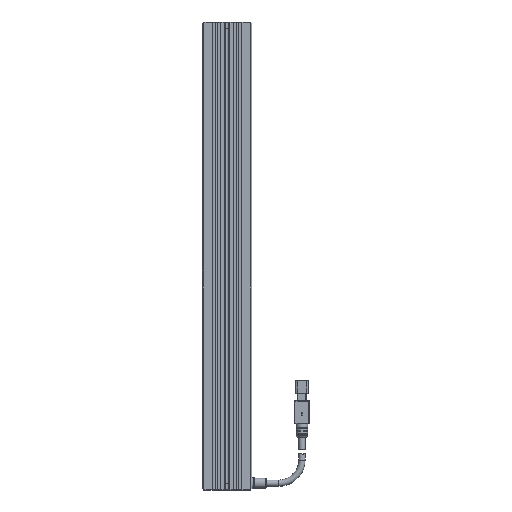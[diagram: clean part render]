
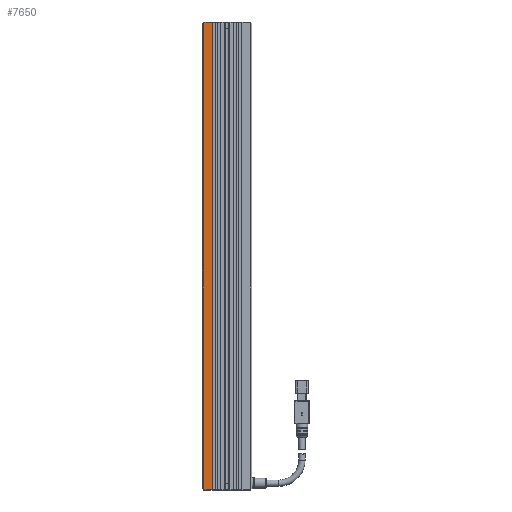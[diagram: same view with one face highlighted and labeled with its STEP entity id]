
A CAD part, top view. The second image highlights one B-rep face of the part: STEP entity #7650.
In plain terms, the highlighted planar face has unit normal (0, 0, 1).
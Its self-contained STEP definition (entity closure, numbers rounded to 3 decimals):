
#595 = LINE ( 'NONE', #9585, #12822 ) ;
#1240 = VECTOR ( 'NONE', #16343, 1000. ) ;
#2207 = FACE_OUTER_BOUND ( 'NONE', #5305, .T. ) ;
#2345 = CARTESIAN_POINT ( 'NONE',  ( -16., -151., 12.5 ) ) ;
#2839 = ORIENTED_EDGE ( 'NONE', *, *, #11911, .T. ) ;
#2917 = LINE ( 'NONE', #6112, #13808 ) ;
#2971 = VERTEX_POINT ( 'NONE', #11487 ) ;
#3251 = CARTESIAN_POINT ( 'NONE',  ( -15., -152., 12.5 ) ) ;
#3433 = CARTESIAN_POINT ( 'NONE',  ( -15.5, -151.5, 12.5 ) ) ;
#4812 = VECTOR ( 'NONE', #15012, 1000. ) ;
#4895 = CARTESIAN_POINT ( 'NONE',  ( -15.5, 152., 12.5 ) ) ;
#4983 = ORIENTED_EDGE ( 'NONE', *, *, #9063, .T. ) ;
#5305 = EDGE_LOOP ( 'NONE', ( #17267, #4983, #5386, #16925, #2839, #11463 ) ) ;
#5386 = ORIENTED_EDGE ( 'NONE', *, *, #10131, .T. ) ;
#6112 = CARTESIAN_POINT ( 'NONE',  ( -9.7, 152., 12.5 ) ) ;
#6974 = CARTESIAN_POINT ( 'NONE',  ( -15.5, 152., 12.5 ) ) ;
#7056 = LINE ( 'NONE', #4895, #1240 ) ;
#7181 = CARTESIAN_POINT ( 'NONE',  ( -9.7, -152., 12.5 ) ) ;
#7650 = ADVANCED_FACE ( 'NONE', ( #2207 ), #17078, .F. ) ;
#7670 = CARTESIAN_POINT ( 'NONE',  ( -15.5, 152., 12.5 ) ) ;
#8306 = CARTESIAN_POINT ( 'NONE',  ( -15., 152., 12.5 ) ) ;
#8394 = DIRECTION ( 'NONE',  ( 1., 0., 0. ) ) ;
#8918 = EDGE_CURVE ( 'NONE', #14923, #14740, #2917, .T. ) ;
#9063 = EDGE_CURVE ( 'NONE', #12035, #2971, #16474, .T. ) ;
#9585 = CARTESIAN_POINT ( 'NONE',  ( -15.5, -152., 12.5 ) ) ;
#10131 = EDGE_CURVE ( 'NONE', #2971, #15382, #7056, .T. ) ;
#10362 = DIRECTION ( 'NONE',  ( 0., -1., 0. ) ) ;
#10904 = VERTEX_POINT ( 'NONE', #3251 ) ;
#11463 = ORIENTED_EDGE ( 'NONE', *, *, #8918, .F. ) ;
#11487 = CARTESIAN_POINT ( 'NONE',  ( -15.5, 151.5, 12.5 ) ) ;
#11534 = AXIS2_PLACEMENT_3D ( 'NONE', #6974, #15616, #16902 ) ;
#11903 = LINE ( 'NONE', #7670, #4812 ) ;
#11911 = EDGE_CURVE ( 'NONE', #10904, #14740, #595, .T. ) ;
#12035 = VERTEX_POINT ( 'NONE', #15126 ) ;
#12661 = VECTOR ( 'NONE', #18240, 1000. ) ;
#12822 = VECTOR ( 'NONE', #8394, 1000. ) ;
#13565 = VECTOR ( 'NONE', #17811, 1000. ) ;
#13808 = VECTOR ( 'NONE', #10362, 1000. ) ;
#14613 = CARTESIAN_POINT ( 'NONE',  ( -9.7, 152., 12.5 ) ) ;
#14740 = VERTEX_POINT ( 'NONE', #7181 ) ;
#14923 = VERTEX_POINT ( 'NONE', #14613 ) ;
#15012 = DIRECTION ( 'NONE',  ( 1., 0., 0. ) ) ;
#15126 = CARTESIAN_POINT ( 'NONE',  ( -15., 152., 12.5 ) ) ;
#15382 = VERTEX_POINT ( 'NONE', #3433 ) ;
#15616 = DIRECTION ( 'NONE',  ( 0., 0., -1. ) ) ;
#16343 = DIRECTION ( 'NONE',  ( 0., -1., 0. ) ) ;
#16474 = LINE ( 'NONE', #8306, #12661 ) ;
#16660 = EDGE_CURVE ( 'NONE', #15382, #10904, #18418, .T. ) ;
#16902 = DIRECTION ( 'NONE',  ( -1., 0., 0. ) ) ;
#16925 = ORIENTED_EDGE ( 'NONE', *, *, #16660, .T. ) ;
#17078 = PLANE ( 'NONE',  #11534 ) ;
#17140 = EDGE_CURVE ( 'NONE', #12035, #14923, #11903, .T. ) ;
#17267 = ORIENTED_EDGE ( 'NONE', *, *, #17140, .F. ) ;
#17811 = DIRECTION ( 'NONE',  ( 0.707, -0.707, 0. ) ) ;
#18240 = DIRECTION ( 'NONE',  ( -0.707, -0.707, 0. ) ) ;
#18418 = LINE ( 'NONE', #2345, #13565 ) ;
